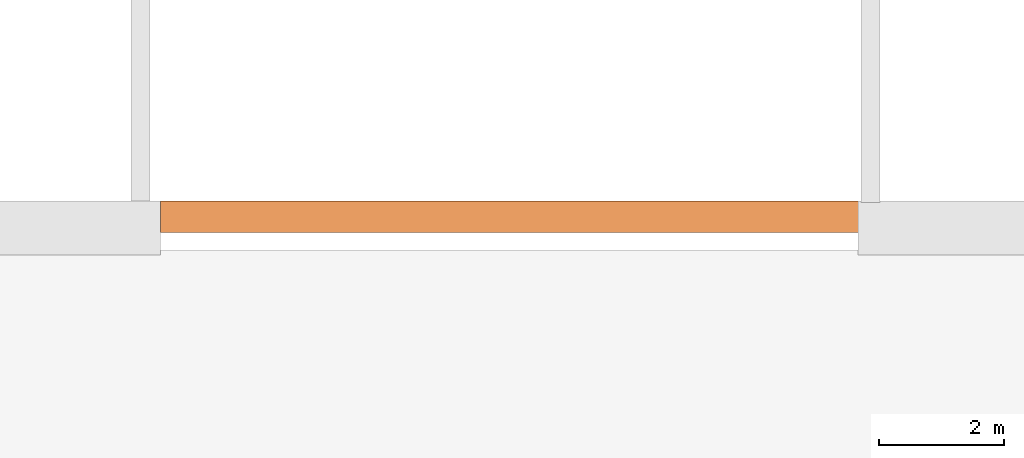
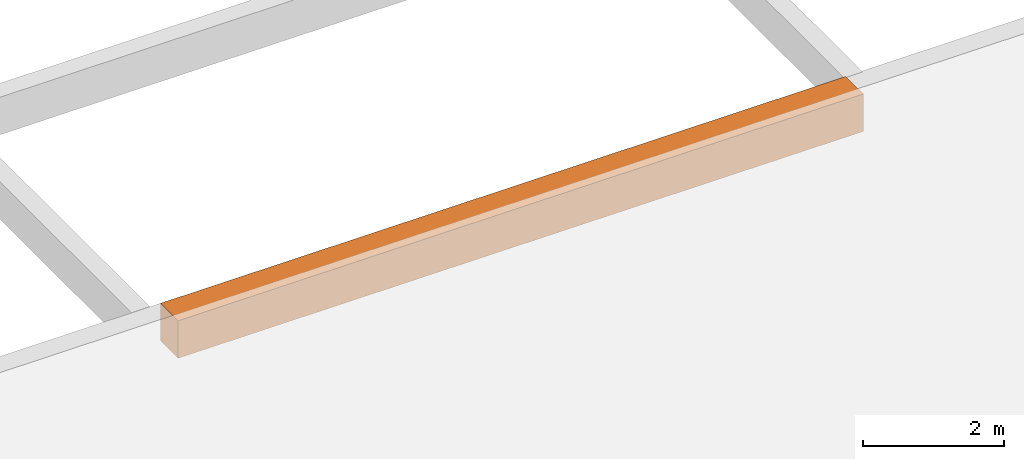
# One storey, part 3 of 3: 1 proxy.
"""IFC2X3 building model written with IfcOpenShell, lengths in millimetres."""

from ifc_helpers import new_model, entity, si_unit, converted_unit, derived_unit, money_unit, direction, frame, origin_with_axes, place, context, subcontext, project, spatial, polyline, outline, extrude, material, type_object, element, save


model = new_model("IFC2X3")

# Units and contexts
model_context = context("Model", 3, precision=1e-05, world=origin_with_axes(), true_north=direction((0.0, 1.0)))
body_context = subcontext(model_context, "Body", "Model", "MODEL_VIEW")
ifc_project = project(units=[si_unit("LENGTHUNIT", "METRE", prefix="MILLI"), si_unit("AREAUNIT", "SQUARE_METRE"), si_unit("VOLUMEUNIT", "CUBIC_METRE"), converted_unit("PLANEANGLEUNIT", "DEGREE", entity("IfcPlaneAngleMeasure", 0.0174532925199), si_unit("PLANEANGLEUNIT", "RADIAN"), dimensions=[0, 0, 0, 0, 0, 0, 0]), si_unit("SOLIDANGLEUNIT", "STERADIAN"), money_unit("EUR"), converted_unit("TIMEUNIT", "Year", entity("IfcTimeMeasure", 31556926.0), si_unit("TIMEUNIT", "SECOND"), dimensions=[0, 0, 1, 0, 0, 0, 0]), si_unit("MASSUNIT", "GRAM", prefix="KILO"), si_unit("THERMODYNAMICTEMPERATUREUNIT", "DEGREE_CELSIUS"), si_unit("LUMINOUSINTENSITYUNIT", "LUMEN"), si_unit("ENERGYUNIT", "JOULE", prefix="MEGA"), derived_unit("THERMALCONDUCTANCEUNIT", [(si_unit("POWERUNIT", "WATT"), 1), (si_unit("LENGTHUNIT", "METRE"), -1), (si_unit("THERMODYNAMICTEMPERATUREUNIT", "KELVIN"), -1)]), derived_unit("SPECIFICHEATCAPACITYUNIT", [(si_unit("ENERGYUNIT", "JOULE"), 1), (si_unit("MASSUNIT", "GRAM", prefix="KILO"), -1), (si_unit("THERMODYNAMICTEMPERATUREUNIT", "KELVIN"), -1)]), derived_unit("MASSDENSITYUNIT", [(si_unit("MASSUNIT", "GRAM", prefix="KILO"), 1), (si_unit("VOLUMEUNIT", "CUBIC_METRE"), -1)])], contexts=[model_context])

# Site, building, storey
site_placement = place(None, origin_with_axes())
site = spatial("IfcSite", under=ifc_project, at=site_placement, Name="Site", CompositionType="ELEMENT")
building_placement = place(site_placement, origin_with_axes())
building = spatial("IfcBuilding", under=site, at=building_placement, Name="Building", CompositionType="ELEMENT")
storey_placement = place(building_placement, frame((0.0, 0.0, -1000.0), z_axis=(0.0, 0.0, 1.0), x_axis=(1.0, 0.0, 0.0)))
storey = spatial("IfcBuildingStorey", under=building, at=storey_placement, Name="VUNDAMENT", CompositionType="ELEMENT", Elevation=-1000.0)

# Proxy
ifc_material = material(Name="PAEKIVISEIN")
building_element_proxy_type = type_object("IfcBuildingElementProxyType", Name="SW - 001", PredefinedType="NOTDEFINED")
proxy_placement = place(storey_placement, frame((70547.4690381, 47389.2705655, 0.0), z_axis=(0.0, 0.0, 1.0), x_axis=(0.999999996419, -8.46287483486e-05, 0.0)))
element("IfcBuildingElementProxy", 1, at=proxy_placement, inside=storey, type_object=building_element_proxy_type, material=ifc_material, Name="PAEKIVISEIN;  Objekti nimi:", context=body_context, shape_type="SweptSolid", body=[
    extrude(outline(polyline([(0.0, -500.0), (11220.297497, -499.999999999), (11220.297497, 0.0), (0.0, 0.0), (0.0, -500.0)])), origin_with_axes(), (0.0, 0.0, 1.0), 650.0),
])

save(model, "model.ifc")
